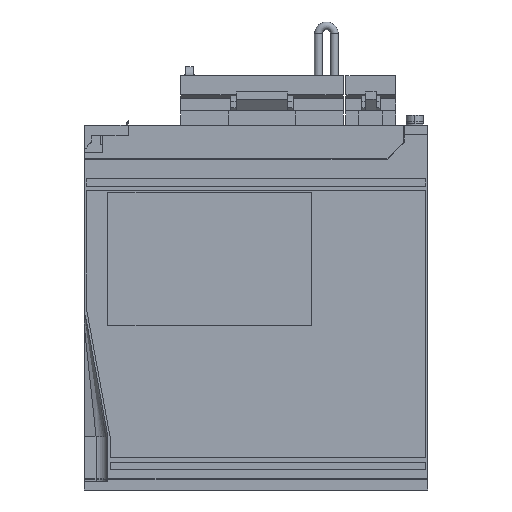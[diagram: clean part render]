
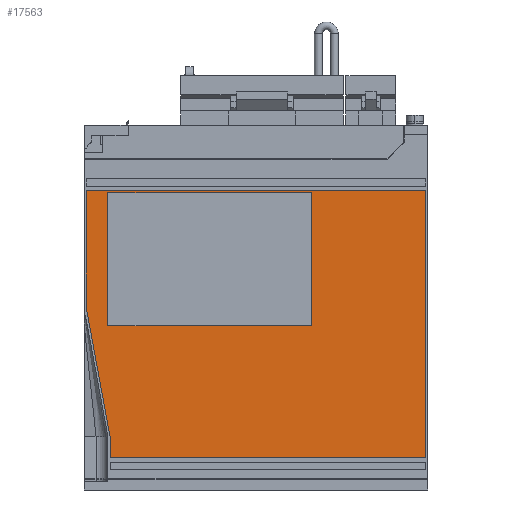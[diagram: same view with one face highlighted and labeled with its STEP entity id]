
A CAD part, left-side view. The second image highlights one B-rep face of the part: STEP entity #17563.
In plain terms, the highlighted planar face has unit normal (-1, 0, 0).
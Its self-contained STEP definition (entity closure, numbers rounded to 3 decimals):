
#7176 = CARTESIAN_POINT ( 'NONE',  ( -4.7, -7., 15. ) ) ;
#7177 = DIRECTION ( 'NONE',  ( 0., -1., 0. ) ) ;
#7178 = VECTOR ( 'NONE', #7177, 1000. ) ;
#7179 = CARTESIAN_POINT ( 'NONE',  ( -4.7, -7., 15. ) ) ;
#7180 = LINE ( 'NONE', #7179, #7178 ) ;
#7211 = CARTESIAN_POINT ( 'NONE',  ( -4.7, -154., 15. ) ) ;
#7212 = DIRECTION ( 'NONE',  ( 0., 0., 1. ) ) ;
#7213 = VECTOR ( 'NONE', #7212, 1000. ) ;
#7214 = CARTESIAN_POINT ( 'NONE',  ( -4.7, -154., 15. ) ) ;
#7215 = LINE ( 'NONE', #7214, #7213 ) ;
#7226 = CARTESIAN_POINT ( 'NONE',  ( -4.7, -7., 24.891 ) ) ;
#7227 = DIRECTION ( 'NONE',  ( 0., 0., -1. ) ) ;
#7228 = VECTOR ( 'NONE', #7227, 1000. ) ;
#7229 = CARTESIAN_POINT ( 'NONE',  ( -4.7, -7., 24.891 ) ) ;
#7230 = LINE ( 'NONE', #7229, #7228 ) ;
#7241 = DIRECTION ( 'NONE',  ( 0., 0., 1. ) ) ;
#7242 = VECTOR ( 'NONE', #7241, 1000. ) ;
#7243 = CARTESIAN_POINT ( 'NONE',  ( -4.7, -101., 139.5 ) ) ;
#7244 = LINE ( 'NONE', #7243, #7242 ) ;
#7248 = CARTESIAN_POINT ( 'NONE',  ( -4.7, -101., 138.5 ) ) ;
#7250 = DIRECTION ( 'NONE',  ( 0., 1., 0. ) ) ;
#7251 = VECTOR ( 'NONE', #7250, 1000. ) ;
#7252 = CARTESIAN_POINT ( 'NONE',  ( -4.7, -154., 138.5 ) ) ;
#7253 = LINE ( 'NONE', #7252, #7251 ) ;
#7256 = DIRECTION ( 'NONE',  ( 0., 1., 0. ) ) ;
#7257 = VECTOR ( 'NONE', #7256, 1000. ) ;
#7258 = CARTESIAN_POINT ( 'NONE',  ( -4.7, 4., 139.5 ) ) ;
#7259 = LINE ( 'NONE', #7258, #7257 ) ;
#7261 = CARTESIAN_POINT ( 'NONE',  ( -4.7, 4., 139.5 ) ) ;
#7287 = CARTESIAN_POINT ( 'NONE',  ( -4.7, -6., 138.5 ) ) ;
#7288 = DIRECTION ( 'NONE',  ( 0., 0., -1. ) ) ;
#7289 = VECTOR ( 'NONE', #7288, 1000. ) ;
#7290 = CARTESIAN_POINT ( 'NONE',  ( -4.7, -6., 139.5 ) ) ;
#7291 = LINE ( 'NONE', #7290, #7289 ) ;
#7292 = CARTESIAN_POINT ( 'NONE',  ( -4.7, -101., 76.5 ) ) ;
#7294 = CARTESIAN_POINT ( 'NONE',  ( -4.7, -6., 76.5 ) ) ;
#7295 = DIRECTION ( 'NONE',  ( 0., -1., 0. ) ) ;
#7296 = VECTOR ( 'NONE', #7295, 1000. ) ;
#7297 = CARTESIAN_POINT ( 'NONE',  ( -4.7, -154., 76.5 ) ) ;
#7298 = LINE ( 'NONE', #7297, #7296 ) ;
#7299 = DIRECTION ( 'NONE',  ( 0., -1., 0. ) ) ;
#7300 = DIRECTION ( 'NONE',  ( -1., 0., 0. ) ) ;
#7301 = CARTESIAN_POINT ( 'NONE',  ( -4.7, -154., 139.5 ) ) ;
#7302 = AXIS2_PLACEMENT_3D ( 'NONE', #7301, #7300, #7299 ) ;
#7303 = PLANE ( 'NONE',  #7302 ) ;
#7304 = FACE_OUTER_BOUND ( 'NONE', #17550, .T. ) ;
#7305 = FACE_BOUND ( 'NONE', #17564, .T. ) ;
#7306 = DIRECTION ( 'NONE',  ( 0., 0., -1. ) ) ;
#7307 = VECTOR ( 'NONE', #7306, 1000. ) ;
#7308 = CARTESIAN_POINT ( 'NONE',  ( -4.7, 4., 84.683 ) ) ;
#7309 = LINE ( 'NONE', #7308, #7307 ) ;
#7344 = CARTESIAN_POINT ( 'NONE',  ( -4.7, 4., 84.683 ) ) ;
#7345 = DIRECTION ( 'NONE',  ( 0., -0.181, -0.983 ) ) ;
#7346 = VECTOR ( 'NONE', #7345, 1000. ) ;
#7347 = CARTESIAN_POINT ( 'NONE',  ( -4.7, 4., 84.683 ) ) ;
#7348 = LINE ( 'NONE', #7347, #7346 ) ;
#17506 = EDGE_CURVE ( 'NONE', #17507, #17524, #7180, .T. ) ;
#17507 = VERTEX_POINT ( 'NONE', #7176 ) ;
#17515 = EDGE_CURVE ( 'NONE', #17516, #17507, #7230, .T. ) ;
#17516 = VERTEX_POINT ( 'NONE', #7226 ) ;
#17523 = EDGE_CURVE ( 'NONE', #17524, #27748, #7215, .T. ) ;
#17524 = VERTEX_POINT ( 'NONE', #7211 ) ;
#17539 = VERTEX_POINT ( 'NONE', #7261 ) ;
#17541 = EDGE_CURVE ( 'NONE', #27748, #17539, #7259, .T. ) ;
#17546 = EDGE_CURVE ( 'NONE', #17547, #17571, #7253, .T. ) ;
#17547 = VERTEX_POINT ( 'NONE', #7248 ) ;
#17548 = ORIENTED_EDGE ( 'NONE', *, *, #17549, .F. ) ;
#17549 = EDGE_CURVE ( 'NONE', #17568, #17547, #7244, .T. ) ;
#17550 = EDGE_LOOP ( 'NONE', ( #17551, #17552, #17553, #17554, #17555, #17556 ) ) ;
#17551 = ORIENTED_EDGE ( 'NONE', *, *, #17541, .T. ) ;
#17552 = ORIENTED_EDGE ( 'NONE', *, *, #17561, .T. ) ;
#17553 = ORIENTED_EDGE ( 'NONE', *, *, #17578, .T. ) ;
#17554 = ORIENTED_EDGE ( 'NONE', *, *, #17515, .T. ) ;
#17555 = ORIENTED_EDGE ( 'NONE', *, *, #17506, .T. ) ;
#17556 = ORIENTED_EDGE ( 'NONE', *, *, #17523, .T. ) ;
#17561 = EDGE_CURVE ( 'NONE', #17539, #17579, #7309, .T. ) ;
#17563 = ADVANCED_FACE ( 'NONE', ( #7305, #7304 ), #7303, .T. ) ;
#17564 = EDGE_LOOP ( 'NONE', ( #17565, #17569, #17572, #17548 ) ) ;
#17565 = ORIENTED_EDGE ( 'NONE', *, *, #17566, .F. ) ;
#17566 = EDGE_CURVE ( 'NONE', #17567, #17568, #7298, .T. ) ;
#17567 = VERTEX_POINT ( 'NONE', #7294 ) ;
#17568 = VERTEX_POINT ( 'NONE', #7292 ) ;
#17569 = ORIENTED_EDGE ( 'NONE', *, *, #17570, .F. ) ;
#17570 = EDGE_CURVE ( 'NONE', #17571, #17567, #7291, .T. ) ;
#17571 = VERTEX_POINT ( 'NONE', #7287 ) ;
#17572 = ORIENTED_EDGE ( 'NONE', *, *, #17546, .F. ) ;
#17578 = EDGE_CURVE ( 'NONE', #17579, #17516, #7348, .T. ) ;
#17579 = VERTEX_POINT ( 'NONE', #7344 ) ;
#27748 = VERTEX_POINT ( 'NONE', #51766 ) ;
#51766 = CARTESIAN_POINT ( 'NONE',  ( -4.7, -154., 139.5 ) ) ;
